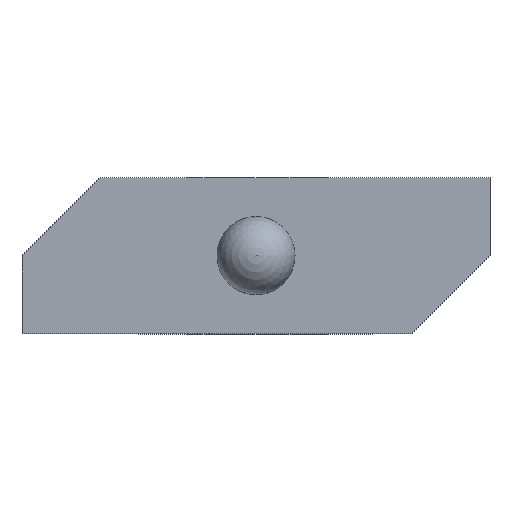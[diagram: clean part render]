
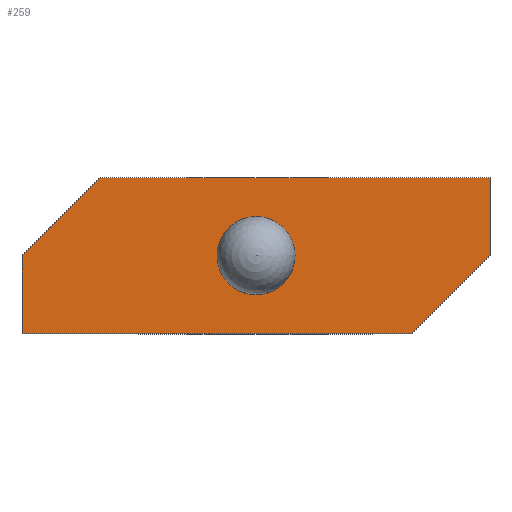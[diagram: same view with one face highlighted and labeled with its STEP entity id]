
A CAD part, top view. The second image highlights one B-rep face of the part: STEP entity #259.
In plain terms, the highlighted planar face has unit normal (0, 0, 1).
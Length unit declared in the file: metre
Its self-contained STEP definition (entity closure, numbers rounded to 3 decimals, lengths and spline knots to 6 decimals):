
#15=CIRCLE('',#288,0.001);
#28=ORIENTED_EDGE('',*,*,#95,.F.);
#29=ORIENTED_EDGE('',*,*,#96,.T.);
#30=ORIENTED_EDGE('',*,*,#97,.T.);
#31=ORIENTED_EDGE('',*,*,#98,.F.);
#32=ORIENTED_EDGE('',*,*,#99,.F.);
#33=ORIENTED_EDGE('',*,*,#100,.T.);
#34=ORIENTED_EDGE('',*,*,#92,.T.);
#92=EDGE_CURVE('',#126,#127,#150,.T.);
#95=EDGE_CURVE('',#128,#128,#15,.T.);
#96=EDGE_CURVE('',#127,#129,#153,.T.);
#97=EDGE_CURVE('',#129,#130,#154,.F.);
#98=EDGE_CURVE('',#131,#130,#155,.T.);
#99=EDGE_CURVE('',#132,#131,#156,.T.);
#100=EDGE_CURVE('',#132,#126,#157,.F.);
#126=VERTEX_POINT('',#388);
#127=VERTEX_POINT('',#389);
#128=VERTEX_POINT('',#394);
#129=VERTEX_POINT('',#396);
#130=VERTEX_POINT('',#398);
#131=VERTEX_POINT('',#400);
#132=VERTEX_POINT('',#402);
#150=LINE('',#387,#180);
#153=LINE('',#395,#183);
#154=LINE('',#397,#184);
#155=LINE('',#399,#185);
#156=LINE('',#401,#186);
#157=LINE('',#403,#187);
#180=VECTOR('',#315,1.);
#183=VECTOR('',#322,1.);
#184=VECTOR('',#323,1.);
#185=VECTOR('',#324,1.);
#186=VECTOR('',#325,1.);
#187=VECTOR('',#326,1.);
#207=EDGE_LOOP('',(#28));
#208=EDGE_LOOP('',(#29,#30,#31,#32,#33,#34));
#227=FACE_BOUND('',#207,.T.);
#228=FACE_BOUND('',#208,.T.);
#247=PLANE('',#287);
#259=ADVANCED_FACE('',(#227,#228),#247,.F.);
#287=AXIS2_PLACEMENT_3D('',#392,#318,#319);
#288=AXIS2_PLACEMENT_3D('',#393,#320,#321);
#315=DIRECTION('',(0.,1.,0.));
#318=DIRECTION('',(0.,0.,-1.));
#319=DIRECTION('',(-1.,0.,0.));
#320=DIRECTION('',(0.,0.,1.));
#321=DIRECTION('',(1.,0.,0.));
#322=DIRECTION('',(-1.,0.,0.));
#323=DIRECTION('',(0.707,0.707,0.));
#324=DIRECTION('',(0.,1.,0.));
#325=DIRECTION('',(-1.,0.,0.));
#326=DIRECTION('',(-0.707,-0.707,0.));
#387=CARTESIAN_POINT('',(0.006,-0.004,0.003));
#388=CARTESIAN_POINT('',(0.006,-0.002,0.003));
#389=CARTESIAN_POINT('',(0.006,0.,0.003));
#392=CARTESIAN_POINT('',(0.0045,-0.004,0.003));
#393=CARTESIAN_POINT('',(0.,-0.002,0.003));
#394=CARTESIAN_POINT('',(0.001,-0.002,0.003));
#395=CARTESIAN_POINT('',(0.0045,0.,0.003));
#396=CARTESIAN_POINT('',(-0.004,0.,0.003));
#397=CARTESIAN_POINT('',(-0.006,-0.002,0.003));
#398=CARTESIAN_POINT('',(-0.006,-0.002,0.003));
#399=CARTESIAN_POINT('',(-0.006,-0.004,0.003));
#400=CARTESIAN_POINT('',(-0.006,-0.004,0.003));
#401=CARTESIAN_POINT('',(0.0045,-0.004,0.003));
#402=CARTESIAN_POINT('',(0.004,-0.004,0.003));
#403=CARTESIAN_POINT('',(0.006,-0.002,0.003));
